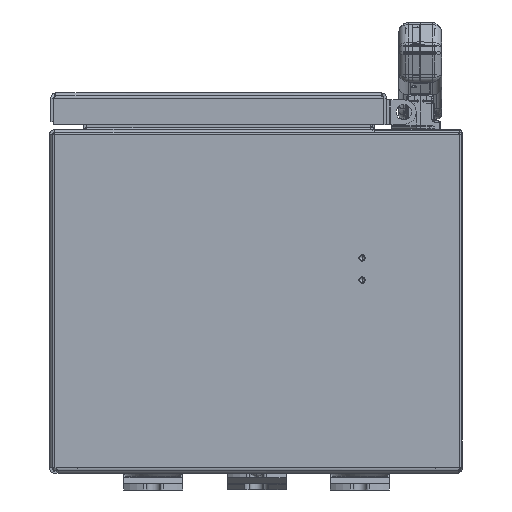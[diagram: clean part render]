
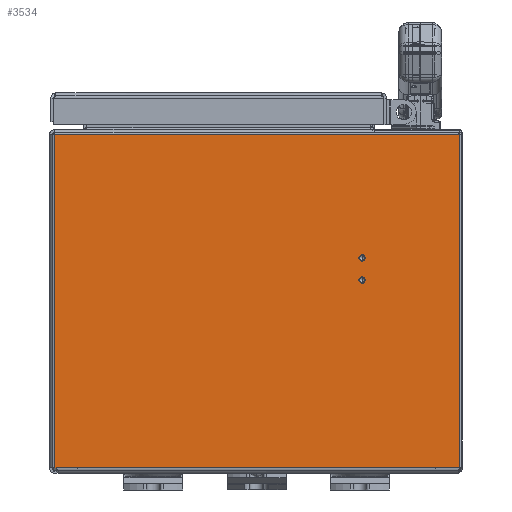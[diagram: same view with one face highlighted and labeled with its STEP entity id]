
A CAD part, front view. The second image highlights one B-rep face of the part: STEP entity #3534.
In plain terms, the highlighted planar face has unit normal (0, -1, 0).
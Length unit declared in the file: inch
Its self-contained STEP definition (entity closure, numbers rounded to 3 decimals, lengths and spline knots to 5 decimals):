
#929=DIRECTION('',(0.,0.,-1.));
#930=VECTOR('',#929,8.474);
#931=CARTESIAN_POINT('',(5.145,-15.7625,0.));
#932=LINE('',#931,#930);
#996=DIRECTION('',(1.,0.,0.));
#997=VECTOR('',#996,0.031);
#998=CARTESIAN_POINT('',(-5.143,-15.7625,-8.474));
#999=LINE('',#998,#997);
#1000=DIRECTION('',(-1.,0.,0.));
#1001=VECTOR('',#1000,10.288);
#1002=CARTESIAN_POINT('',(5.145,-15.7625,0.));
#1003=LINE('',#1002,#1001);
#1004=CARTESIAN_POINT('',(2.67,-15.7625,-3.133));
#1005=DIRECTION('',(0.,1.,0.));
#1006=DIRECTION('',(0.,0.,-1.));
#1007=AXIS2_PLACEMENT_3D('',#1004,#1005,#1006);
#1009=CARTESIAN_POINT('',(2.67,-15.7625,-3.133));
#1010=DIRECTION('',(0.,1.,0.));
#1011=DIRECTION('',(0.,0.,1.));
#1012=AXIS2_PLACEMENT_3D('',#1009,#1010,#1011);
#1014=CARTESIAN_POINT('',(2.67,-15.7625,-3.695));
#1015=DIRECTION('',(0.,1.,0.));
#1016=DIRECTION('',(0.,0.,-1.));
#1017=AXIS2_PLACEMENT_3D('',#1014,#1015,#1016);
#1019=CARTESIAN_POINT('',(2.67,-15.7625,-3.695));
#1020=DIRECTION('',(0.,1.,0.));
#1021=DIRECTION('',(0.,0.,1.));
#1022=AXIS2_PLACEMENT_3D('',#1019,#1020,#1021);
#1024=DIRECTION('',(-1.,0.,0.));
#1025=VECTOR('',#1024,10.257);
#1026=CARTESIAN_POINT('',(5.145,-15.7625,-8.474));
#1027=LINE('',#1026,#1025);
#1110=DIRECTION('',(0.,0.,-1.));
#1111=VECTOR('',#1110,8.474);
#1112=CARTESIAN_POINT('',(-5.143,-15.7625,0.));
#1113=LINE('',#1112,#1111);
#1583=CARTESIAN_POINT('',(-5.143,-15.7625,-8.474));
#1584=CARTESIAN_POINT('',(-5.112,-15.7625,-8.474));
#1585=VERTEX_POINT('',#1583);
#1586=VERTEX_POINT('',#1584);
#1660=CARTESIAN_POINT('',(-5.143,-15.7625,0.));
#1661=VERTEX_POINT('',#1660);
#1830=CARTESIAN_POINT('',(5.145,-15.7625,0.));
#1832=VERTEX_POINT('',#1830);
#1837=CARTESIAN_POINT('',(5.145,-15.7625,-8.474));
#1838=VERTEX_POINT('',#1837);
#1858=CARTESIAN_POINT('',(2.67,-15.7625,-3.19362));
#1859=CARTESIAN_POINT('',(2.67,-15.7625,-3.07238));
#1860=VERTEX_POINT('',#1858);
#1861=VERTEX_POINT('',#1859);
#1862=CARTESIAN_POINT('',(2.67,-15.7625,-3.75562));
#1863=CARTESIAN_POINT('',(2.67,-15.7625,-3.63438));
#1864=VERTEX_POINT('',#1862);
#1865=VERTEX_POINT('',#1863);
#3507=CARTESIAN_POINT('',(5.205,-15.7625,0.));
#3508=DIRECTION('',(0.,1.,0.));
#3509=DIRECTION('',(-1.,0.,0.));
#3510=AXIS2_PLACEMENT_3D('',#3507,#3508,#3509);
#3511=PLANE('',#3510);
#3512=ORIENTED_EDGE('',*,*,#3365,.T.);
#3514=ORIENTED_EDGE('',*,*,#3513,.T.);
#3515=ORIENTED_EDGE('',*,*,#3501,.F.);
#3517=ORIENTED_EDGE('',*,*,#3516,.F.);
#3519=ORIENTED_EDGE('',*,*,#3518,.F.);
#3520=EDGE_LOOP('',(#3512,#3514,#3515,#3517,#3519));
#3521=FACE_OUTER_BOUND('',#3520,.F.);
#3523=ORIENTED_EDGE('',*,*,#3522,.F.);
#3525=ORIENTED_EDGE('',*,*,#3524,.F.);
#3526=EDGE_LOOP('',(#3523,#3525));
#3527=FACE_BOUND('',#3526,.F.);
#3529=ORIENTED_EDGE('',*,*,#3528,.F.);
#3531=ORIENTED_EDGE('',*,*,#3530,.F.);
#3532=EDGE_LOOP('',(#3529,#3531));
#3533=FACE_BOUND('',#3532,.F.);
#3534=ADVANCED_FACE('',(#3521,#3527,#3533),#3511,.F.);
#1008=CIRCLE('',#1007,0.06062);
#1013=CIRCLE('',#1012,0.06062);
#1018=CIRCLE('',#1017,0.06062);
#1023=CIRCLE('',#1022,0.06062);
#3365=EDGE_CURVE('',#1832,#1838,#932,.T.);
#3501=EDGE_CURVE('',#1585,#1586,#999,.T.);
#3513=EDGE_CURVE('',#1838,#1586,#1027,.T.);
#3516=EDGE_CURVE('',#1661,#1585,#1113,.T.);
#3518=EDGE_CURVE('',#1832,#1661,#1003,.T.);
#3522=EDGE_CURVE('',#1860,#1861,#1008,.T.);
#3524=EDGE_CURVE('',#1861,#1860,#1013,.T.);
#3528=EDGE_CURVE('',#1864,#1865,#1018,.T.);
#3530=EDGE_CURVE('',#1865,#1864,#1023,.T.);
